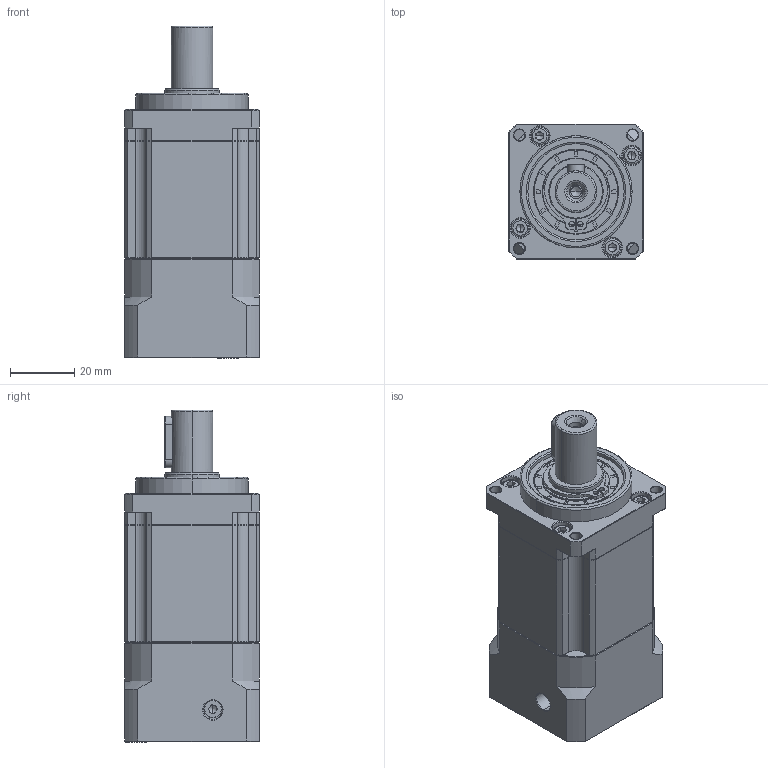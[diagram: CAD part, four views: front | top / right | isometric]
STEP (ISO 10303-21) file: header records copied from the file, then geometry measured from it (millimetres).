
FILE_DESCRIPTION (( 'STEP AP214' ), '1' );
FILE_NAME ('ZB042-D13-L2-P2-8-30-45-M3.STEP', '2023-08-15T12:00:26', ( '' ), ( '' ), 'SwSTEP 2.0', 'SolidWorks 2016', '' );
FILE_SCHEMA (( 'AUTOMOTIVE_DESIGN' ));
Length unit declared in the file: millimetre
Products named in the file (1): ZB042-D13-L2-P2-8-30-45-M3
Bounding box: 42 x 42 x 103.5 mm (x, y, z)
Volume: 123655.2 mm3; surface area: 29196.8 mm2
Topology: 6 solids, 6 shells, 2264 faces, 6067 edges, 3898 vertices
Faces by surface type: plane 1098, cylinder 431, bspline 412, cone 303, torus 20
Entity records: 124905 total; most frequent: CARTESIAN_POINT 47009, ORIENTED_EDGE 12074, DIRECTION 9315, EDGE_CURVE 6037, VERTEX_POINT 3898, LINE 3825, VECTOR 3825, AXIS2_PLACEMENT_3D 2745
